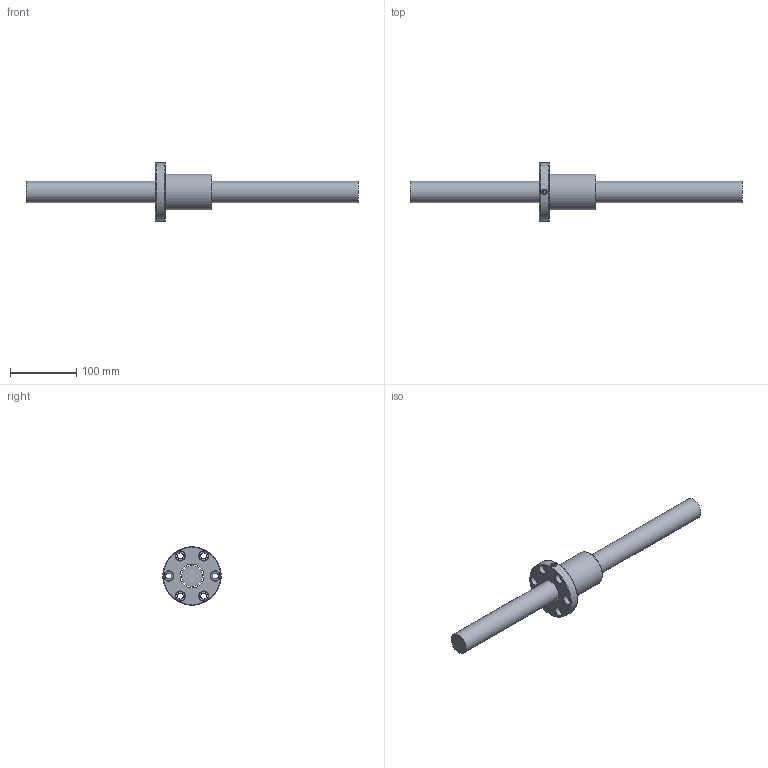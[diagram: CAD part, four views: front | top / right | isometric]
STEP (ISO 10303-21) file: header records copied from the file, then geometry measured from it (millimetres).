
FILE_DESCRIPTION (( 'STEP AP203' ), '1' );
FILE_NAME ('SFNI03210N-4.step', '2024-05-16T01:21:59', ( '' ), ( '' ), 'SwSTEP 2.0', 'SolidWorks 2022', '' );
FILE_SCHEMA (( 'CONFIG_CONTROL_DESIGN' ));
Length unit declared in the file: millimetre
Products named in the file (1): SFNI03210N-4
Bounding box: 500 x 88 x 88 mm (x, y, z)
Volume: 554859.5 mm3; surface area: 90152.9 mm2
Topology: 2 solids, 2 shells, 56 faces, 130 edges, 84 vertices
Faces by surface type: cylinder 24, cone 13, plane 12, bspline 4, torus 3
Full cylindrical faces by diameter (mm): 4 x1, 7 x6, 9 x6, 14 x6, 32 x1, 36.1 x1, 54 x1, 88 x1
Entity records: 3719 total; most frequent: CARTESIAN_POINT 2714, DIRECTION 194, ORIENTED_EDGE 130, EDGE_LOOP 108, AXIS2_PLACEMENT_3D 96, FACE_OUTER_BOUND 72, EDGE_CURVE 65, VERTEX_POINT 61
